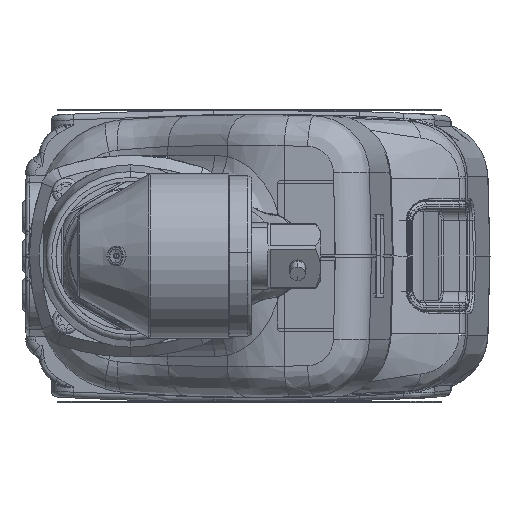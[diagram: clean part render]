
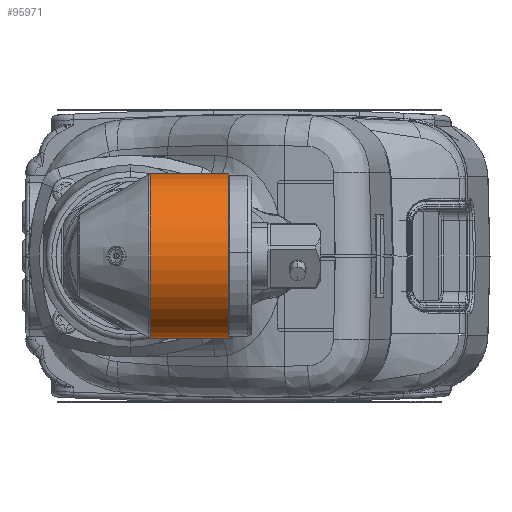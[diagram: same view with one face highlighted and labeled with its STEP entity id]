
A CAD part, left-side view. The second image highlights one B-rep face of the part: STEP entity #95971.
In plain terms, the highlighted cylindrical face has radius 21.082 mm (diameter 42.164 mm), a partial arc.
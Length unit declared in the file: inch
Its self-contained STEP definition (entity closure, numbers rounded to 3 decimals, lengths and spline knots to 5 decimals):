
#707 = VERTEX_POINT ( 'NONE', #214711 ) ;
#7358 = CIRCLE ( 'NONE', #232002, 0.83 ) ;
#17567 = CIRCLE ( 'NONE', #179205, 0.83 ) ;
#18931 = LINE ( 'NONE', #49968, #162844 ) ;
#22077 = EDGE_CURVE ( 'NONE', #707, #188990, #18931, .T. ) ;
#29750 = DIRECTION ( 'NONE',  ( 0., -1., 0. ) ) ;
#30786 = DIRECTION ( 'NONE',  ( 0., 1., 0. ) ) ;
#31858 = ORIENTED_EDGE ( 'NONE', *, *, #22077, .F. ) ;
#37579 = ORIENTED_EDGE ( 'NONE', *, *, #159447, .T. ) ;
#47958 = CARTESIAN_POINT ( 'NONE',  ( -11.70177, -0.2021, -0.83 ) ) ;
#49384 = CARTESIAN_POINT ( 'NONE',  ( -11.70177, -0.993, 0.83 ) ) ;
#49968 = CARTESIAN_POINT ( 'NONE',  ( -11.70177, -1.07, 0.83 ) ) ;
#60609 = CARTESIAN_POINT ( 'NONE',  ( -11.70177, -0.993, -0.83 ) ) ;
#88448 = DIRECTION ( 'NONE',  ( 0., -1., 0. ) ) ;
#95971 = ADVANCED_FACE ( 'NONE', ( #218778 ), #239326, .T. ) ;
#106077 = LINE ( 'NONE', #211444, #205991 ) ;
#119515 = AXIS2_PLACEMENT_3D ( 'NONE', #182381, #162701, #164326 ) ;
#126166 = ORIENTED_EDGE ( 'NONE', *, *, #131752, .T. ) ;
#131752 = EDGE_CURVE ( 'NONE', #221920, #188990, #7358, .T. ) ;
#132576 = EDGE_LOOP ( 'NONE', ( #31858, #37579, #142801, #126166 ) ) ;
#142110 = CARTESIAN_POINT ( 'NONE',  ( -11.70177, -0.2021, 0. ) ) ;
#142801 = ORIENTED_EDGE ( 'NONE', *, *, #158535, .T. ) ;
#143127 = CARTESIAN_POINT ( 'NONE',  ( -11.70177, -0.993, 0. ) ) ;
#158535 = EDGE_CURVE ( 'NONE', #175816, #221920, #106077, .T. ) ;
#159447 = EDGE_CURVE ( 'NONE', #707, #175816, #17567, .T. ) ;
#161060 = DIRECTION ( 'NONE',  ( 0., 0., 1. ) ) ;
#162080 = DIRECTION ( 'NONE',  ( 0., 0., 1. ) ) ;
#162701 = DIRECTION ( 'NONE',  ( 0., -1., 0. ) ) ;
#162844 = VECTOR ( 'NONE', #88448, 39.37008 ) ;
#164326 = DIRECTION ( 'NONE',  ( 0., 0., -1. ) ) ;
#175816 = VERTEX_POINT ( 'NONE', #47958 ) ;
#179205 = AXIS2_PLACEMENT_3D ( 'NONE', #142110, #29750, #161060 ) ;
#182381 = CARTESIAN_POINT ( 'NONE',  ( -11.70177, -1.07, 0. ) ) ;
#188990 = VERTEX_POINT ( 'NONE', #49384 ) ;
#205991 = VECTOR ( 'NONE', #210638, 39.37008 ) ;
#210638 = DIRECTION ( 'NONE',  ( 0., -1., 0. ) ) ;
#211444 = CARTESIAN_POINT ( 'NONE',  ( -11.70177, -1.07, -0.83 ) ) ;
#214711 = CARTESIAN_POINT ( 'NONE',  ( -11.70177, -0.2021, 0.83 ) ) ;
#218778 = FACE_OUTER_BOUND ( 'NONE', #132576, .T. ) ;
#221920 = VERTEX_POINT ( 'NONE', #60609 ) ;
#232002 = AXIS2_PLACEMENT_3D ( 'NONE', #143127, #30786, #162080 ) ;
#239326 = CYLINDRICAL_SURFACE ( 'NONE', #119515, 0.83 ) ;
